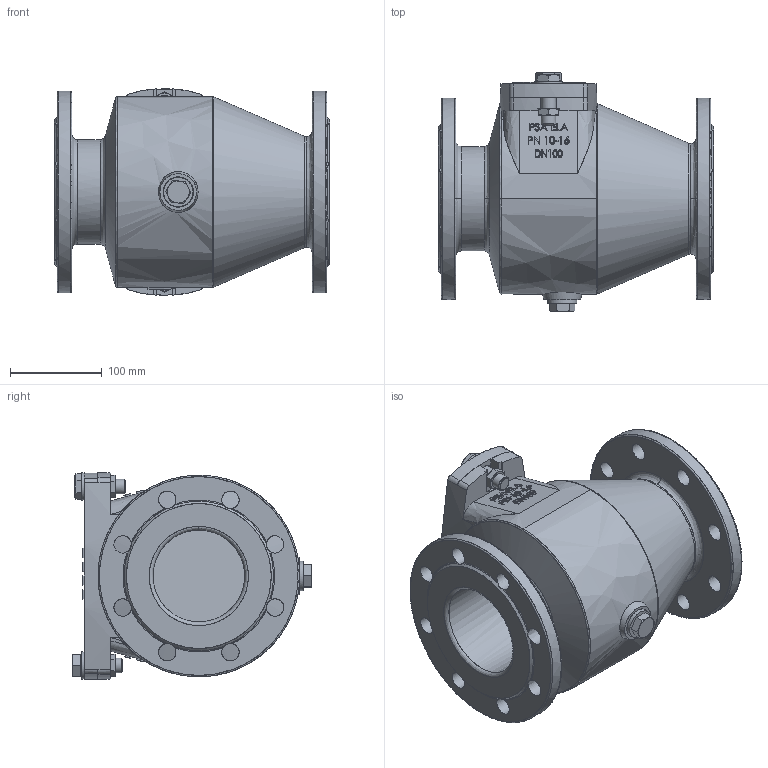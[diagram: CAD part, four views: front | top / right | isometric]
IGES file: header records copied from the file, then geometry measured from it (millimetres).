
Start section: P
Global section: file name: PSA ELA DN100 PN16.igs; native system: By Siemens PLM Incorporated; preprocessor: XPlus GENERIC/IGES 25.1.153; author: Christin-Michelle Fremgen; organization: PSA Wasserarmaturen GmbH; date: 20241016.115916; units: millimetre
Bounding box: 300 x 261.35 x 225 mm (x, y, z)
Surface area: 619625.3 mm2 (no closed solid volume)
Topology: 0 solids, 0 shells, 1573 faces, 8493 edges, 8478 vertices
Faces by surface type: bspline 1573
